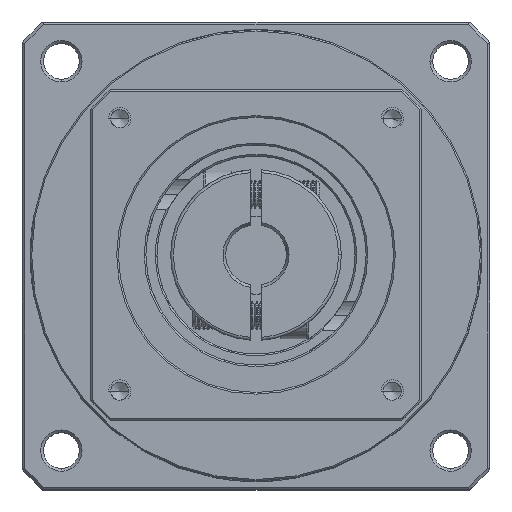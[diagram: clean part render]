
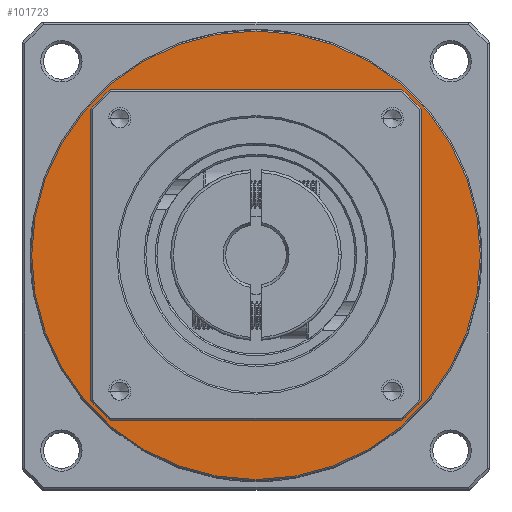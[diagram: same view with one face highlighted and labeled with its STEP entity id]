
A CAD part, top view. The second image highlights one B-rep face of the part: STEP entity #101723.
In plain terms, the highlighted planar face has unit normal (0, 0, 1).
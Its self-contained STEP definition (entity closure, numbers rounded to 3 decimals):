
#5111 = ORIENTED_EDGE ( 'NONE', *, *, #12539, .F. ) ;
#6225 = CARTESIAN_POINT ( 'NONE',  ( -64.087, 20.095, -26.151 ) ) ;
#7805 = DIRECTION ( 'NONE',  ( 0., 0., -1. ) ) ;
#10461 = VERTEX_POINT ( 'NONE', #40045 ) ;
#12539 = EDGE_CURVE ( 'NONE', #10461, #58676, #78050, .T. ) ;
#13151 = DIRECTION ( 'NONE',  ( 0., 0., -1. ) ) ;
#15119 = DIRECTION ( 'NONE',  ( -1., 0., 0. ) ) ;
#17187 = CIRCLE ( 'NONE', #18735, 40.75 ) ;
#17721 = CARTESIAN_POINT ( 'NONE',  ( -104.837, 20.095, -26.151 ) ) ;
#18735 = AXIS2_PLACEMENT_3D ( 'NONE', #104892, #52220, #113810 ) ;
#18797 = AXIS2_PLACEMENT_3D ( 'NONE', #66125, #13151, #74931 ) ;
#19326 = CARTESIAN_POINT ( 'NONE',  ( -64.087, 20.095, -26.151 ) ) ;
#22392 = EDGE_CURVE ( 'NONE', #58676, #10461, #17187, .T. ) ;
#27875 = PLANE ( 'NONE',  #103012 ) ;
#28238 = DIRECTION ( 'NONE',  ( 1., 0., 0. ) ) ;
#40045 = CARTESIAN_POINT ( 'NONE',  ( -23.337, 20.095, -26.151 ) ) ;
#40835 = EDGE_LOOP ( 'NONE', ( #70919, #71552 ) ) ;
#45088 = CARTESIAN_POINT ( 'NONE',  ( -94.087, 20.095, -26.151 ) ) ;
#45614 = FACE_OUTER_BOUND ( 'NONE', #107065, .T. ) ;
#52220 = DIRECTION ( 'NONE',  ( 0., 0., -1. ) ) ;
#52844 = CIRCLE ( 'NONE', #84210, 30. ) ;
#54528 = VERTEX_POINT ( 'NONE', #89381 ) ;
#58676 = VERTEX_POINT ( 'NONE', #17721 ) ;
#60719 = CARTESIAN_POINT ( 'NONE',  ( -64.087, 20.095, -26.151 ) ) ;
#66125 = CARTESIAN_POINT ( 'NONE',  ( -64.087, 20.095, -26.151 ) ) ;
#68079 = DIRECTION ( 'NONE',  ( 0., 0., -1. ) ) ;
#69324 = EDGE_CURVE ( 'NONE', #107204, #54528, #72075, .T. ) ;
#69616 = DIRECTION ( 'NONE',  ( -1., 0., 0. ) ) ;
#70919 = ORIENTED_EDGE ( 'NONE', *, *, #69324, .T. ) ;
#71007 = ORIENTED_EDGE ( 'NONE', *, *, #22392, .F. ) ;
#71552 = ORIENTED_EDGE ( 'NONE', *, *, #97905, .T. ) ;
#72075 = CIRCLE ( 'NONE', #82624, 30. ) ;
#74931 = DIRECTION ( 'NONE',  ( -1., 0., 0. ) ) ;
#78050 = CIRCLE ( 'NONE', #18797, 40.75 ) ;
#81052 = DIRECTION ( 'NONE',  ( 0., 0., 1. ) ) ;
#82624 = AXIS2_PLACEMENT_3D ( 'NONE', #60719, #7805, #69616 ) ;
#84210 = AXIS2_PLACEMENT_3D ( 'NONE', #6225, #68079, #15119 ) ;
#89381 = CARTESIAN_POINT ( 'NONE',  ( -34.087, 20.095, -26.151 ) ) ;
#92518 = FACE_BOUND ( 'NONE', #40835, .T. ) ;
#97905 = EDGE_CURVE ( 'NONE', #54528, #107204, #52844, .T. ) ;
#101723 = ADVANCED_FACE ( 'NONE', ( #45614, #92518 ), #27875, .T. ) ;
#103012 = AXIS2_PLACEMENT_3D ( 'NONE', #19326, #81052, #28238 ) ;
#104892 = CARTESIAN_POINT ( 'NONE',  ( -64.087, 20.095, -26.151 ) ) ;
#107065 = EDGE_LOOP ( 'NONE', ( #71007, #5111 ) ) ;
#107204 = VERTEX_POINT ( 'NONE', #45088 ) ;
#113810 = DIRECTION ( 'NONE',  ( -1., 0., 0. ) ) ;
